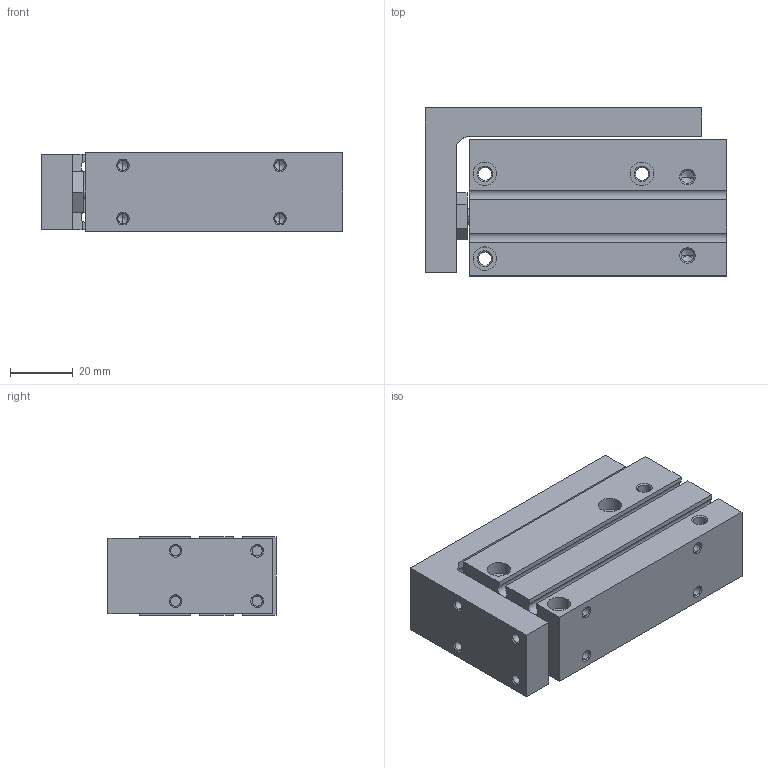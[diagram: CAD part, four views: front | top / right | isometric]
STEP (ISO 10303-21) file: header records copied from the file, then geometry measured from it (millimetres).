
FILE_DESCRIPTION (( 'STEP AP203' ), '1' );
FILE_NAME ('CXH16-40.STEP', '2020-04-16T18:12:11', ( '' ), ( '' ), 'SwSTEP 2.0', 'SolidWorks 2019', '' );
FILE_SCHEMA (( 'CONFIG_CONTROL_DESIGN' ));
Length unit declared in the file: millimetre
Products named in the file (1): CXH16-40
Bounding box: 96 x 53.5 x 25 mm (x, y, z)
Volume: 102838.7 mm3; surface area: 33632.4 mm2
Topology: 2 solids, 2 shells, 216 faces, 515 edges, 298 vertices
Faces by surface type: cone 92, cylinder 80, plane 44
Entity records: 6176 total; most frequent: DIRECTION 1141, CARTESIAN_POINT 1044, ORIENTED_EDGE 974, EDGE_CURVE 487, AXIS2_PLACEMENT_3D 441, VERTEX_POINT 298, EDGE_LOOP 265, VECTOR 259
